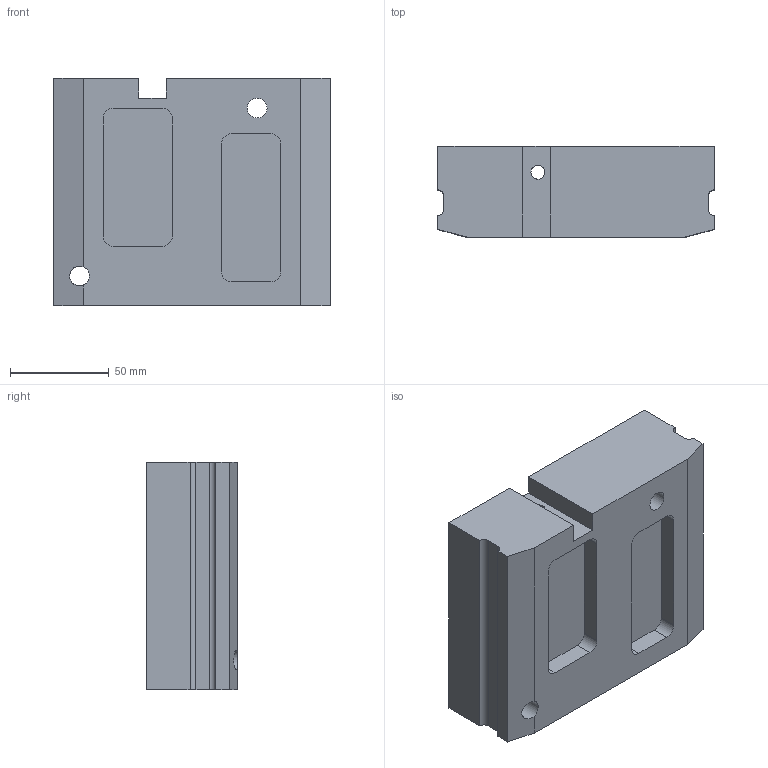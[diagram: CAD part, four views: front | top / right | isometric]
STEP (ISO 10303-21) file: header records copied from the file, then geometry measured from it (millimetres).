
FILE_DESCRIPTION(('Open CASCADE Model'),'2;1');
FILE_NAME('Open CASCADE Shape Model','2026-09-27T02:18:02',('Author'),( 'Open CASCADE'),'Open CASCADE STEP processor 7.9','Open CASCADE 7.9' ,'Unknown');
FILE_SCHEMA(('AUTOMOTIVE_DESIGN { 1 0 10303 214 1 1 1 1 }'));
Products named in the file (1): Open CASCADE STEP translator 7.9 2
Bounding box: 140 x 46 x 115 mm (x, y, z)
Volume: 554242.3 mm3; surface area: 71340.1 mm2
Topology: 1 solids, 1 shells, 733 faces, 2030 edges, 1341 vertices
Faces by surface type: plane 524, bspline 177, cylinder 32
Full cylindrical faces by diameter (mm): 4 x15, 7 x1, 10 x2, 16 x1
Entity records: 226199 total; most frequent: CARTESIAN_POINT 194053, B_SPLINE_CURVE_WITH_KNOTS 4213, ORIENTED_EDGE 4058, PCURVE 4058, DEFINITIONAL_REPRESENTATION 4058, DIRECTION 3039, EDGE_CURVE 2029, SURFACE_CURVE 2010
